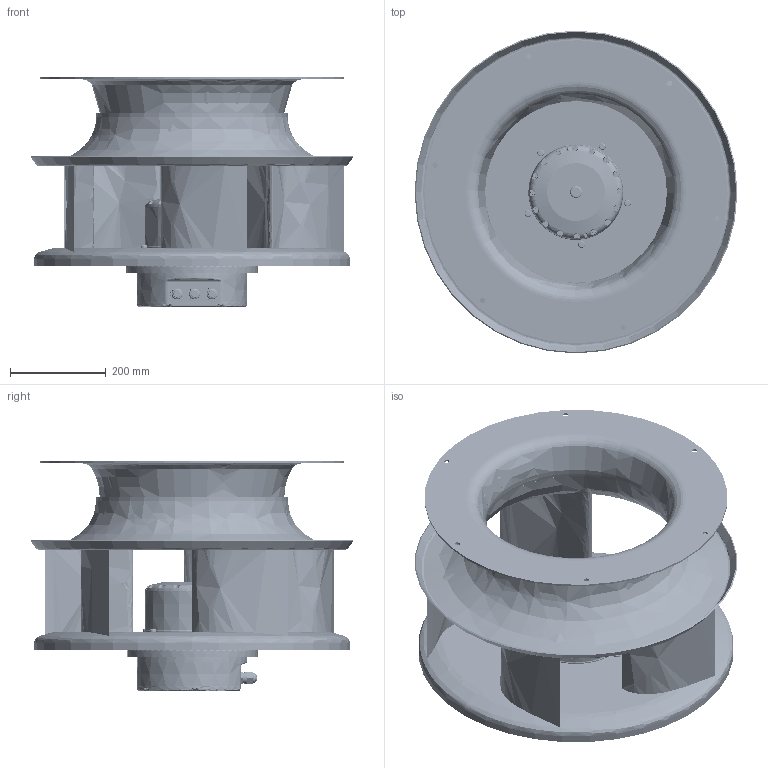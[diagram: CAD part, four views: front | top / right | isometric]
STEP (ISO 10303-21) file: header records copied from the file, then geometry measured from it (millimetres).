
FILE_DESCRIPTION (( 'STEP AP214' ), '1' );
FILE_NAME ('GTB063PUU41R-3D.STEP', '2020-10-15T03:07:01', ( '' ), ( '' ), 'SwSTEP 2.0', 'SolidWorks 2019', '' );
FILE_SCHEMA (( 'AUTOMOTIVE_DESIGN' ));
Length unit declared in the file: millimetre
Products named in the file (15): CABLE GLAND; SCREW-M8-L20; STATOR ASSY; BOTTOM COVER; GTB063PUU41R-3D; inlet Cone;  PILLOW; PILLOW; impeller; M4x20; SHAFT ASSY(AFTER); AL-rotor; ROTOR ASSY; Cover; Motor
Assembly tree (25 placements, depth 5):
  GTB063PUU41R-3D
    impeller
    Motor
      STATOR ASSY
        PILLOW
           PILLOW
        CABLE GLAND  x3
      ROTOR ASSY
        AL-rotor
        SHAFT ASSY(AFTER)
      Cover
        BOTTOM COVER
        M4x20  x6
    SCREW-M8-L20  x5
    inlet Cone
Bounding box: 675 x 675 x 479.5 mm (x, y, z)
Volume: 11970756.6 mm3; surface area: 2998070.5 mm2
Topology: 21 solids, 24 shells, 7576 faces, 18409 edges, 10733 vertices
Faces by surface type: bspline 2885, cylinder 1446, plane 1245, torus 921, cone 830, sphere 249
Entity records: 286819 total; most frequent: CARTESIAN_POINT 142632, ORIENTED_EDGE 33596, DIRECTION 26111, EDGE_CURVE 16798, AXIS2_PLACEMENT_3D 11244, VERTEX_POINT 9878, EDGE_LOOP 7292, FACE_OUTER_BOUND 7047
